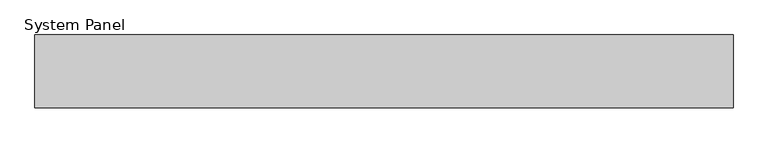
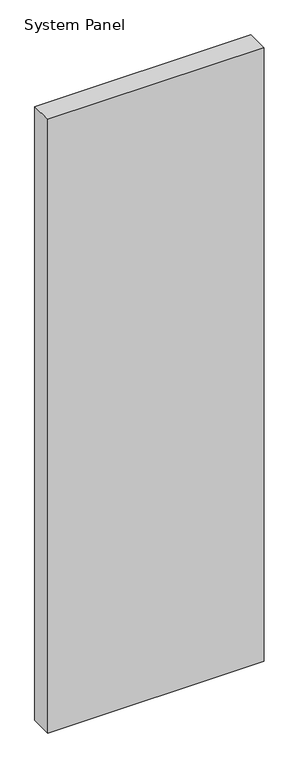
"""IFC4 building model written with IfcOpenShell, lengths in millimetres: plate geometry, System Panel : Equitilt_125mm_Plain_Surfmist."""

from ifc_helpers import new_model, si_unit, origin, origin_with_axes, place, context, project, spatial, polyline, outline, extrude, source, transform, mapped, element, save


def system_panel_9042fe93(model_context):
    return source(origin(), model_context, "Body", "SweptSolid", [
        extrude(outline(polyline([(600.0, 0.0), (-600.0, 0.0), (-600.0, 125.0), (600.0, 125.0), (600.0, 0.0)])), origin_with_axes(), (0.0, 0.0, 1.0), 3600.0),
    ])


if __name__ == "__main__":
    model = new_model("IFC4")
    model_context = context("Model", 3, world=origin())
    ifc_project = project(units=[si_unit("LENGTHUNIT", "METRE", prefix="MILLI")], contexts=[model_context])
    site = spatial("IfcSite", under=ifc_project)
    building = spatial("IfcBuilding", under=site)
    placement = place(None, origin())
    system_panel_shape = system_panel_9042fe93(model_context)
    element("IfcPlate", 1, ObjectType="System Panel : Equitilt_125mm_Plain_Surfmist", at=placement, inside=building, context=model_context, shape_type="MappedRepresentation", body=[
        mapped(system_panel_shape, transform((0.0, 0.0, 0.0), x_axis=(1.0, 0.0, 0.0), y_axis=(0.0, 1.0, 0.0), z_axis=(0.0, 0.0, 1.0))),
    ])
    save(model, "model.ifc")
